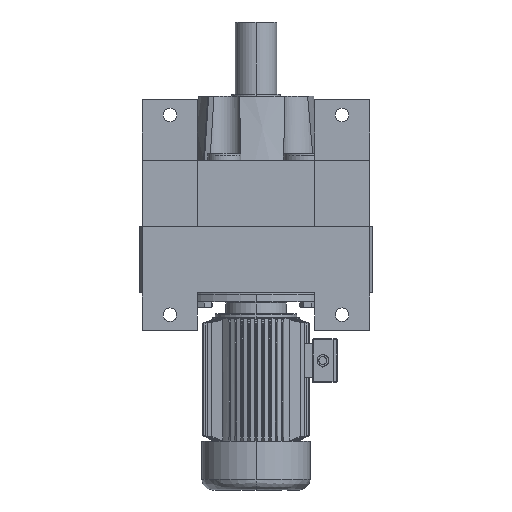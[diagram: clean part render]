
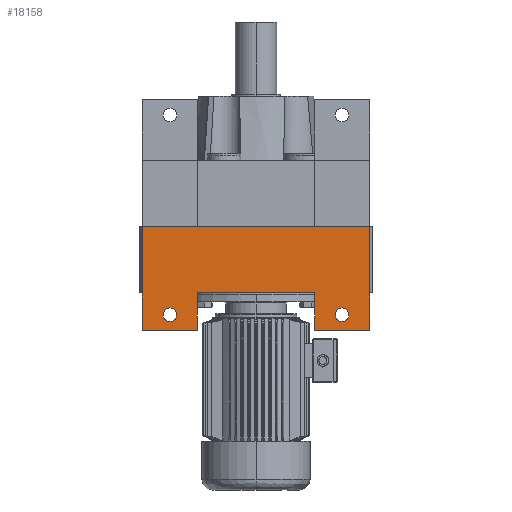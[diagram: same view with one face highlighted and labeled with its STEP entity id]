
A CAD part, front view. The second image highlights one B-rep face of the part: STEP entity #18158.
In plain terms, the highlighted planar face has unit normal (0, -1, 0).
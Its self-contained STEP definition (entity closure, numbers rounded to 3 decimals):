
#80 = DIRECTION ( 'NONE',  ( 0., 0., -1. ) ) ;
#387 = VERTEX_POINT ( 'NONE', #21977 ) ;
#621 = EDGE_CURVE ( 'NONE', #41092, #33412, #4654, .T. ) ;
#912 = CARTESIAN_POINT ( 'NONE',  ( -170., -425., 561. ) ) ;
#966 = CARTESIAN_POINT ( 'NONE',  ( 250., -425., -83.5 ) ) ;
#2446 = EDGE_CURVE ( 'NONE', #39998, #24217, #15072, .T. ) ;
#2777 = AXIS2_PLACEMENT_3D ( 'NONE', #28324, #46567, #31887 ) ;
#3197 = VERTEX_POINT ( 'NONE', #6215 ) ;
#4654 = CIRCLE ( 'NONE', #2777, 19.5 ) ;
#4688 = ORIENTED_EDGE ( 'NONE', *, *, #40932, .F. ) ;
#4773 = ORIENTED_EDGE ( 'NONE', *, *, #18272, .F. ) ;
#5357 = VECTOR ( 'NONE', #18758, 1000. ) ;
#5484 = DIRECTION ( 'NONE',  ( 0., -1., 0. ) ) ;
#5601 = ORIENTED_EDGE ( 'NONE', *, *, #13632, .F. ) ;
#5853 = CARTESIAN_POINT ( 'NONE',  ( 170., -425., 192. ) ) ;
#5937 = VECTOR ( 'NONE', #33991, 1000. ) ;
#6215 = CARTESIAN_POINT ( 'NONE',  ( -330., -425., -109. ) ) ;
#6319 = CARTESIAN_POINT ( 'NONE',  ( 250., -425., -44.5 ) ) ;
#7103 = LINE ( 'NONE', #13029, #8261 ) ;
#7729 = CARTESIAN_POINT ( 'NONE',  ( 271.2, -425., -109. ) ) ;
#7751 = ORIENTED_EDGE ( 'NONE', *, *, #621, .F. ) ;
#8053 = AXIS2_PLACEMENT_3D ( 'NONE', #43857, #44025, #10883 ) ;
#8261 = VECTOR ( 'NONE', #27555, 1000. ) ;
#8606 = DIRECTION ( 'NONE',  ( -1., 0., 0. ) ) ;
#8670 = DIRECTION ( 'NONE',  ( 0., 0., 1. ) ) ;
#8902 = DIRECTION ( 'NONE',  ( 0., 0., 1. ) ) ;
#9507 = CARTESIAN_POINT ( 'NONE',  ( -250., -425., -64. ) ) ;
#9876 = ORIENTED_EDGE ( 'NONE', *, *, #27656, .F. ) ;
#10883 = DIRECTION ( 'NONE',  ( 0., 0., 1. ) ) ;
#10919 = ORIENTED_EDGE ( 'NONE', *, *, #41330, .F. ) ;
#11694 = DIRECTION ( 'NONE',  ( 0., -1., 0. ) ) ;
#11736 = DIRECTION ( 'NONE',  ( 0., 0., 1. ) ) ;
#12437 = CARTESIAN_POINT ( 'NONE',  ( 170., -425., -109. ) ) ;
#12630 = CARTESIAN_POINT ( 'NONE',  ( 271.2, -425., 192. ) ) ;
#13029 = CARTESIAN_POINT ( 'NONE',  ( 271.2, -425., -109. ) ) ;
#13632 = EDGE_CURVE ( 'NONE', #25438, #14659, #32801, .T. ) ;
#14298 = CARTESIAN_POINT ( 'NONE',  ( -170., -425., 0. ) ) ;
#14659 = VERTEX_POINT ( 'NONE', #33107 ) ;
#15072 = LINE ( 'NONE', #7729, #5357 ) ;
#15286 = CARTESIAN_POINT ( 'NONE',  ( 271.2, -425., 192. ) ) ;
#15670 = AXIS2_PLACEMENT_3D ( 'NONE', #15286, #41213, #8606 ) ;
#16075 = CARTESIAN_POINT ( 'NONE',  ( 330., -425., -109. ) ) ;
#16418 = VERTEX_POINT ( 'NONE', #16684 ) ;
#16487 = ORIENTED_EDGE ( 'NONE', *, *, #24133, .T. ) ;
#16684 = CARTESIAN_POINT ( 'NONE',  ( -170., -425., -109. ) ) ;
#16754 = DIRECTION ( 'NONE',  ( 0., 0., 1. ) ) ;
#17248 = LINE ( 'NONE', #18197, #24113 ) ;
#18106 = VERTEX_POINT ( 'NONE', #45192 ) ;
#18158 = ADVANCED_FACE ( 'NONE', ( #20873, #42620, #23170 ), #30501, .F. ) ;
#18197 = CARTESIAN_POINT ( 'NONE',  ( 330., -425., 192. ) ) ;
#18272 = EDGE_CURVE ( 'NONE', #16418, #3197, #7103, .T. ) ;
#18758 = DIRECTION ( 'NONE',  ( -1., 0., 0. ) ) ;
#19259 = EDGE_CURVE ( 'NONE', #387, #39998, #17248, .T. ) ;
#20481 = DIRECTION ( 'NONE',  ( 1., 0., 0. ) ) ;
#20706 = CIRCLE ( 'NONE', #25963, 19.5 ) ;
#20873 = FACE_OUTER_BOUND ( 'NONE', #33336, .T. ) ;
#21977 = CARTESIAN_POINT ( 'NONE',  ( 330., -425., 192. ) ) ;
#23170 = FACE_BOUND ( 'NONE', #39453, .T. ) ;
#23605 = LINE ( 'NONE', #912, #45355 ) ;
#24113 = VECTOR ( 'NONE', #80, 1000. ) ;
#24133 = EDGE_CURVE ( 'NONE', #16418, #25459, #23605, .T. ) ;
#24139 = ORIENTED_EDGE ( 'NONE', *, *, #28405, .F. ) ;
#24165 = LINE ( 'NONE', #26099, #35099 ) ;
#24217 = VERTEX_POINT ( 'NONE', #12437 ) ;
#24580 = CARTESIAN_POINT ( 'NONE',  ( -250., -425., -83.5 ) ) ;
#25438 = VERTEX_POINT ( 'NONE', #24580 ) ;
#25459 = VERTEX_POINT ( 'NONE', #14298 ) ;
#25963 = AXIS2_PLACEMENT_3D ( 'NONE', #9507, #5484, #8902 ) ;
#26099 = CARTESIAN_POINT ( 'NONE',  ( -330., -425., 192. ) ) ;
#26209 = CARTESIAN_POINT ( 'NONE',  ( 250., -425., -64. ) ) ;
#26757 = ORIENTED_EDGE ( 'NONE', *, *, #30915, .F. ) ;
#27243 = ORIENTED_EDGE ( 'NONE', *, *, #19259, .F. ) ;
#27555 = DIRECTION ( 'NONE',  ( -1., 0., 0. ) ) ;
#27656 = EDGE_CURVE ( 'NONE', #3197, #36798, #24165, .T. ) ;
#28324 = CARTESIAN_POINT ( 'NONE',  ( 250., -425., -64. ) ) ;
#28405 = EDGE_CURVE ( 'NONE', #18106, #25459, #47176, .T. ) ;
#29071 = EDGE_CURVE ( 'NONE', #33412, #41092, #30588, .T. ) ;
#29807 = CARTESIAN_POINT ( 'NONE',  ( 149.16, -425., 0. ) ) ;
#30483 = VECTOR ( 'NONE', #16754, 1000. ) ;
#30501 = PLANE ( 'NONE',  #15670 ) ;
#30588 = CIRCLE ( 'NONE', #35960, 19.5 ) ;
#30915 = EDGE_CURVE ( 'NONE', #36798, #387, #30936, .T. ) ;
#30936 = LINE ( 'NONE', #12630, #38373 ) ;
#31406 = CARTESIAN_POINT ( 'NONE',  ( -330., -425., 192. ) ) ;
#31887 = DIRECTION ( 'NONE',  ( 0., 0., 1. ) ) ;
#32213 = LINE ( 'NONE', #5853, #30483 ) ;
#32752 = ORIENTED_EDGE ( 'NONE', *, *, #2446, .F. ) ;
#32801 = CIRCLE ( 'NONE', #8053, 19.5 ) ;
#33107 = CARTESIAN_POINT ( 'NONE',  ( -250., -425., -44.5 ) ) ;
#33336 = EDGE_LOOP ( 'NONE', ( #26757, #9876, #4773, #16487, #24139, #4688, #32752, #27243 ) ) ;
#33412 = VERTEX_POINT ( 'NONE', #966 ) ;
#33991 = DIRECTION ( 'NONE',  ( -1., 0., 0. ) ) ;
#35099 = VECTOR ( 'NONE', #11736, 1000. ) ;
#35171 = EDGE_LOOP ( 'NONE', ( #7751, #40423 ) ) ;
#35960 = AXIS2_PLACEMENT_3D ( 'NONE', #26209, #11694, #8670 ) ;
#36798 = VERTEX_POINT ( 'NONE', #31406 ) ;
#38373 = VECTOR ( 'NONE', #20481, 1000. ) ;
#39453 = EDGE_LOOP ( 'NONE', ( #10919, #5601 ) ) ;
#39998 = VERTEX_POINT ( 'NONE', #16075 ) ;
#40423 = ORIENTED_EDGE ( 'NONE', *, *, #29071, .F. ) ;
#40932 = EDGE_CURVE ( 'NONE', #24217, #18106, #32213, .T. ) ;
#40933 = DIRECTION ( 'NONE',  ( 0., 0., 1. ) ) ;
#41092 = VERTEX_POINT ( 'NONE', #6319 ) ;
#41213 = DIRECTION ( 'NONE',  ( 0., 1., 0. ) ) ;
#41330 = EDGE_CURVE ( 'NONE', #14659, #25438, #20706, .T. ) ;
#42620 = FACE_BOUND ( 'NONE', #35171, .T. ) ;
#43857 = CARTESIAN_POINT ( 'NONE',  ( -250., -425., -64. ) ) ;
#44025 = DIRECTION ( 'NONE',  ( 0., -1., 0. ) ) ;
#45192 = CARTESIAN_POINT ( 'NONE',  ( 170., -425., 0. ) ) ;
#45355 = VECTOR ( 'NONE', #40933, 1000. ) ;
#46567 = DIRECTION ( 'NONE',  ( 0., -1., 0. ) ) ;
#47176 = LINE ( 'NONE', #29807, #5937 ) ;
